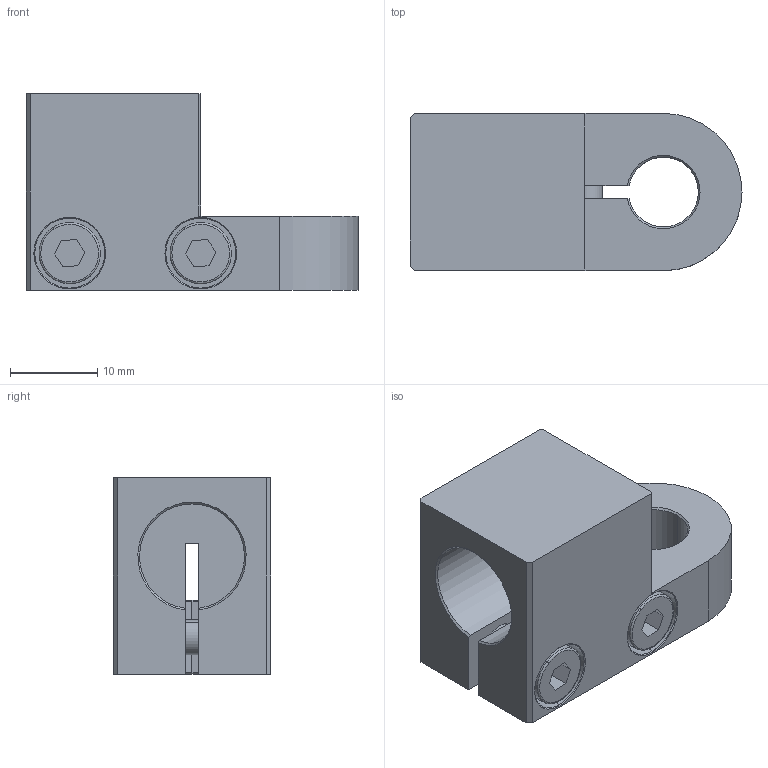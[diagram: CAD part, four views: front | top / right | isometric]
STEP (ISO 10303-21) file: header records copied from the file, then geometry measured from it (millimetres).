
FILE_DESCRIPTION (( 'STEP AP214' ), '1' );
FILE_NAME ('SMBR5-1208.STEP', '2019-11-07T02:15:29', ( '微软用户' ), ( '微软中国' ), 'SwSTEP 2.0', 'SolidWorks 2016', '' );
FILE_SCHEMA (( 'AUTOMOTIVE_DESIGN' ));
Length unit declared in the file: millimetre
Products named in the file (1): SMBR5-1208
Bounding box: 38 x 18 x 22.5 mm (x, y, z)
Volume: 7675 mm3; surface area: 5490.6 mm2
Topology: 5 solids, 5 shells, 473 faces, 1364 edges, 901 vertices
Faces by surface type: plane 421, cylinder 34, cone 14, bspline 4
Entity records: 21131 total; most frequent: CARTESIAN_POINT 3005, DIRECTION 2746, ORIENTED_EDGE 2728, EDGE_CURVE 1364, AXIS2_PLACEMENT_3D 926, VERTEX_POINT 901, VECTOR 894, LINE 894
